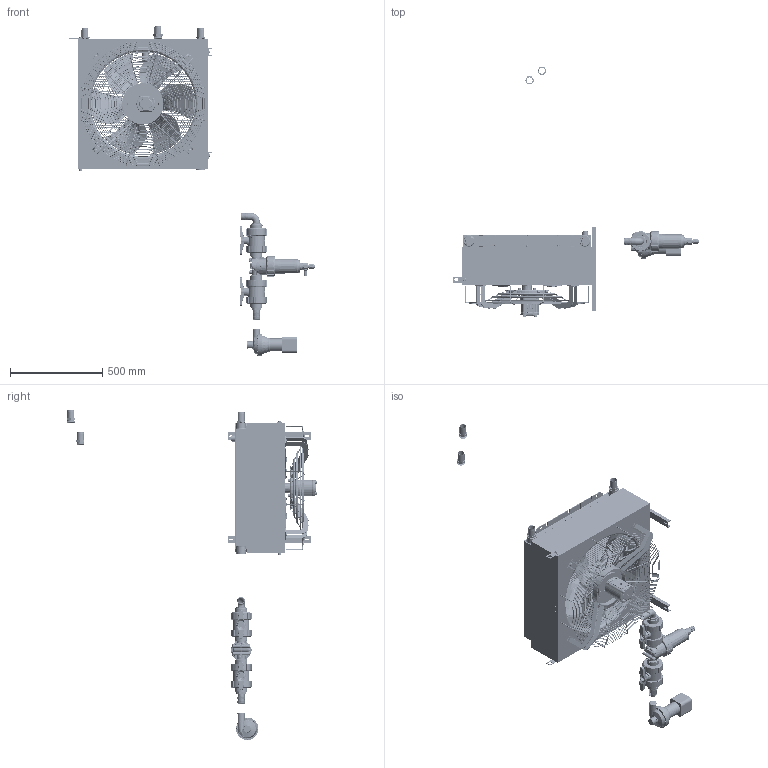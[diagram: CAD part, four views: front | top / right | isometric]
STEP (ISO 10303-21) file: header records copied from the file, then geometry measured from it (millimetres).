
FILE_DESCRIPTION(/* description */ (''),/* implementation_level */ '2;1');
FILE_NAME(/* name */ '1638081.stp',/* time_stamp */ '2025-04-23T13:17:11+02:00',/* author */ ('JJ'),/* organization */ (''),/* preprocessor_version */ 'ST-DEVELOPER v20',/* originating_system */ 'Autodesk Inventor 2025',/* authorisation */ '');
FILE_SCHEMA (('AUTOMOTIVE_DESIGN { 1 0 10303 214 3 1 1 }'));
Products named in the file (10): 1638081; 962000075; 962000069; 944600346; 944600344; 944600345; 944600347; 944600348; 944600349; 925000888
Assembly tree (19 placements, depth 2):
  1638081
    962000075
    962000069
    944600346  x2
    944600344
    944600345
    944600347  x4
    944600348
    944600349  x4
    925000888  x4
Bounding box: 1326.25 x 1354.75 x 1797.06 mm (x, y, z)
Volume: 21738101.1 mm3; surface area: 9769967.8 mm2
Topology: 148 solids, 194 shells, 9781 faces, 26274 edges, 16944 vertices
Faces by surface type: plane 3825, cylinder 2636, bspline 1501, cone 1005, torus 708, sphere 106
Full cylindrical faces by diameter (mm): 1 x4, 1.28 x2, 2 x3, 2.5 x2, 3 x1, 3.1 x1, 3.5 x2, 4 x6, 4.5 x6, 4.8 x24, 5 x20, 5.5 x1, 6 x20, 6.5 x15, 6.647 x2, 6.8 x34, 7 x1, 8 x42, 8.5 x6, 9 x18, 9.5 x1, 9.7 x1, 10 x4, 10.5 x5, 10.8 x1, 11 x4, 11.3 x2, 11.445 x2, 11.5 x3, 12 x12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
Entity records: 437738 total; most frequent: CARTESIAN_POINT 221514, ORIENTED_EDGE 46348, DIRECTION 39501, EDGE_CURVE 23174, VERTEX_POINT 15022, AXIS2_PLACEMENT_3D 14726, LINE 10049, VECTOR 10049
